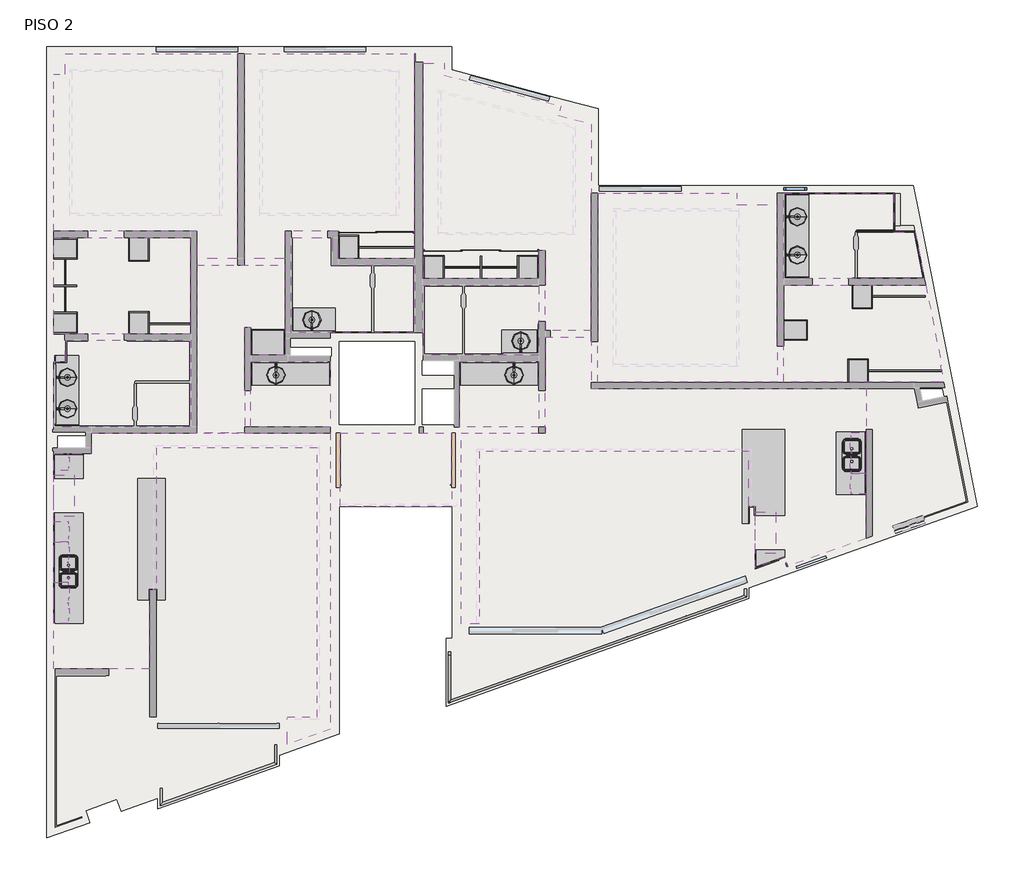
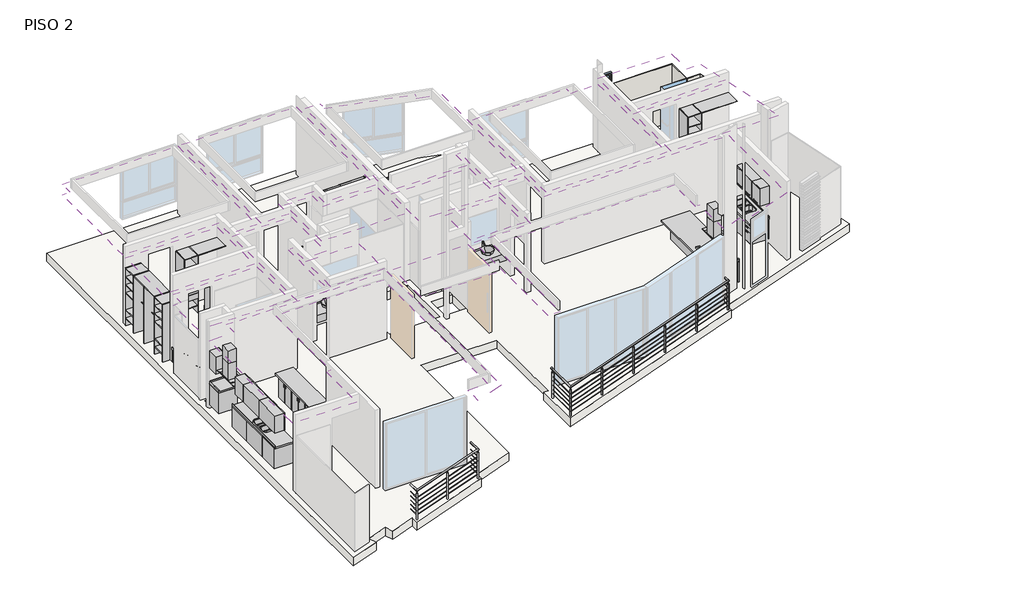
# One storey, part 3 of 3: 39 furniture elements, 18 flow terminals, 16 coverings, 8 walls, 3 windows, 2 proxies, 2 railings, 1 slab.
"""IFC4 building model written with IfcOpenShell, lengths in millimetres."""

from ifc_helpers import new_model, si_unit, frame, origin, place, context, project, spatial, polyline, outline, extrude, faceted_brep, transform, mapped, element, save
from components import specialty_equipment_e95493f8, flow_terminal_a2814962, flow_terminal_5cc0e8a1, flow_terminal_a7820e30, flow_terminal_68213279, flow_terminal_dbe0ad42, furniture_d9654537, furniture_a8ddcfd3, furniture_af3adfe5, furniture_695d730f, furniture_6c499260, furniture_030b6b42, furniture_772ddd76, furniture_c1e19565, furniture_471029ad, furniture_b7afe628, furniture_370_x_600_x_320_mm_8a8752ee, furniture_3900_mm_204c5ad0, furniture_450_x_600_x_320_mm_b980701e, furniture_450_x_600_x_320_mm_602578f4, furniture_550_mm_c334357f, furniture_620_mm_497b6e52, furniture_620_mm_84e951ed, furniture_680_mm_c6045463, furniture_7700_mm_prof_40_e6cee792, furniture_820_mm_546e8a10, furniture_900_mm_f7b05b38, furniture_900_x_600_x_320_mm_ed7ff752, furniture_900_x_600_x_320_mm_dd102760, cl05_4e4fac43, cl2_closet_fc385fcd, cl3_closet_a3c0aced, cl4_a_closet_81bb138c, cl4b_closet_0a5770e6, cl4c_closet_576a11e8, cl6a_closet_3e36db71, cl6b_closet_5e1df598, cl6c_closet_d8154fa9, cubierta2_cubierta_aadcaa71, cubierta3_cubierta_942fcd4e, railing_a711cc9b, railing_feb85b43, window_504e83ce, window_e5abd41f, window_608fdc28

model = new_model("IFC4")

# Units and contexts
model_context = context("Model", 3, world=origin())
ifc_project = project(units=[si_unit("LENGTHUNIT", "METRE", prefix="MILLI")], contexts=[model_context])

# Site, building, storey
site = spatial("IfcSite", under=ifc_project)
building = spatial("IfcBuilding", under=site)
storey = spatial("IfcBuildingStorey", under=building, Name="PISO 2", Elevation=6000.0)

# Proxies
placement = place(None, origin())
specialty_equipment_shape = specialty_equipment_e95493f8(model_context)
element("IfcBuildingElementProxy", 1, Name="Campana rectangular - muro : Campana rectangular - muro", ObjectType="Campana rectangular - muro : Campana rectangular - muro", at=placement, inside=storey, context=model_context, shape_type="MappedRepresentation", body=[
    mapped(specialty_equipment_shape, transform((34277.2089874, 28344.010184, 6250.0), x_axis=(0.0, 1.0, 0.0), y_axis=(-1.0, 0.0, 0.0), z_axis=(0.0, 0.0, 1.0))),
])
element("IfcBuildingElementProxy", 2, Name="Campana rectangular - muro : Campana rectangular - muro", ObjectType="Campana rectangular - muro : Campana rectangular - muro", at=placement, inside=storey, context=model_context, shape_type="MappedRepresentation", body=[
    mapped(specialty_equipment_shape, transform((49717.8559119, 27525.7129416, 6250.0), x_axis=(0.0, 1.0, 0.0), y_axis=(-1.0, 0.0, 0.0), z_axis=(0.0, 0.0, 1.0))),
])

# Coverings
element("IfcCovering", 3, ObjectType="Plafond Tablaroca", at=placement, inside=storey, context=model_context, shape_type="SweptSolid", body=[
    extrude(outline(polyline([(34143.8589874, 34168.9785701), (34143.8589874, 37625.4026232), (34398.8589874, 37625.4026232), (34398.8589874, 38080.4026232), (38194.5300226, 38080.4026232), (38194.5300226, 33568.9784839), (37294.5300226, 33568.9784839), (37294.5300226, 34168.9785701), (34143.8589874, 34168.9785701)]), holes=[polyline([(34543.8589874, 34568.9785701), (37794.5300226, 34568.9785701), (37794.5300226, 37680.4026232), (34543.8589874, 37680.4026232), (34543.8589874, 34568.9785701)])]), frame((0.0, 0.0, 8350.0), z_axis=(0.0, 0.0, 1.0), x_axis=(1.0, 0.0, 0.0)), (0.0, 0.0, 1.0), 52.7),
])
element("IfcCovering", 4, ObjectType="Plafond Tablaroca", at=placement, inside=storey, context=model_context, shape_type="SweptSolid", body=[
    extrude(outline(polyline([(38334.5300226, 38080.4026232), (42084.5059119, 38080.4026232), (42084.5059119, 33568.9784839), (40409.5059119, 33568.9784839), (40409.5059119, 34168.9785701), (39234.5300226, 34168.9785701), (39234.5300226, 33568.9784839), (38334.5300226, 33568.9784839), (38334.5300226, 38080.4026232)]), holes=[polyline([(38734.5300226, 37680.4026232), (38734.5300226, 34568.9785701), (41684.5059119, 34568.9785701), (41684.5059119, 37680.4026232), (38734.5300226, 37680.4026232)])]), frame((0.0, 0.0, 8350.0), z_axis=(0.0, 0.0, 1.0), x_axis=(1.0, 0.0, 0.0)), (0.0, 0.0, 1.0), 52.7),
])
element("IfcCovering", 5, ObjectType="Plafond Tablaroca", at=placement, inside=storey, context=model_context, shape_type="SweptSolid", body=[
    extrude(outline(polyline([(45253.4028147, 36725.1514674), (45974.5059119, 36531.2471191), (45974.5059119, 35104.0104642), (45974.5059119, 31984.0100923), (44964.5251366, 31984.0100923), (44964.5251366, 33744.0113905), (44824.5251366, 33744.0113905), (44824.5251366, 33124.0113856), (42264.5059119, 33124.0113856), (42264.5059119, 37875.4026232), (42744.5059119, 37875.4026232), (42744.5059119, 37612.0750171), (45306.6362479, 36923.1191455), (45253.4028147, 36725.1514674)]), holes=[polyline([(42664.5059119, 37219.3779563), (42664.5059119, 34144.0113905), (45574.5059119, 34144.0113905), (45574.5059119, 36436.8800645), (42664.5059119, 37219.3779563)])]), frame((0.0, 0.0, 8350.0), z_axis=(0.0, 0.0, 1.0), x_axis=(1.0, 0.0, 0.0)), (0.0, 0.0, 1.0), 52.7),
])
element("IfcCovering", 6, ObjectType="Plafond Tablaroca", at=placement, inside=storey, context=model_context, shape_type="SweptSolid", body=[
    extrude(outline(polyline([(42084.5059119, 31933.9733508), (40329.5059119, 31933.9733508), (39374.5300226, 31933.9733508), (39374.5300226, 34028.9785701), (40269.5059119, 34028.9785701), (40269.5059119, 33428.9784839), (42084.5059119, 33428.9784839), (42084.5059119, 31933.9733508)])), frame((0.0, 0.0, 8350.0), z_axis=(0.0, 0.0, 1.0), x_axis=(1.0, 0.0, 0.0)), (0.0, 0.0, 1.0), 52.7),
])
element("IfcCovering", 7, ObjectType="Plafond Tablaroca", at=placement, inside=storey, context=model_context, shape_type="SweptSolid", body=[
    extrude(outline(polyline([(40234.5059119, 31304.0104769), (40234.5059119, 29864.010184), (38484.5059119, 29864.010184), (38484.5059119, 31304.0104769), (39294.5300226, 31304.0104769), (40234.5059119, 31304.0104769)])), frame((0.0, 0.0, 8350.0), z_axis=(0.0, 0.0, 1.0), x_axis=(1.0, 0.0, 0.0)), (0.0, 0.0, 1.0), 52.7),
])
element("IfcCovering", 8, ObjectType="Plafond Tablaroca", at=placement, inside=storey, context=model_context, shape_type="SweptSolid", body=[
    extrude(outline(polyline([(34903.8589874, 29864.010184), (34143.8589874, 29864.010184), (34143.8589874, 31298.9733508), (34398.8589874, 31298.9733508), (34398.8589874, 31768.9733508), (37154.5300226, 31768.9733508), (37154.5300226, 29864.010184), (34903.8589874, 29864.010184)])), frame((0.0, 0.0, 8350.0), z_axis=(0.0, 0.0, 1.0), x_axis=(1.0, 0.0, 0.0)), (0.0, 0.0, 1.0), 52.7),
])
element("IfcCovering", 9, ObjectType="Plafond Tablaroca", at=placement, inside=storey, context=model_context, shape_type="SweptSolid", body=[
    extrude(outline(polyline([(37154.5300226, 31908.9733508), (34143.8589874, 31908.9733508), (34143.8589874, 34028.9785701), (37154.5300226, 34028.9785701), (37154.5300226, 31908.9733508)])), frame((0.0, 0.0, 8350.0), z_axis=(0.0, 0.0, 1.0), x_axis=(1.0, 0.0, 0.0)), (0.0, 0.0, 1.0), 52.7),
])
element("IfcCovering", 10, ObjectType="Plafond Tablaroca", at=placement, inside=storey, context=model_context, shape_type="SweptSolid", body=[
    extrude(outline(polyline([(39234.5300226, 33428.9784839), (39234.5300226, 31444.0104769), (38484.5059119, 31444.0104769), (38484.5059119, 32044.0104769), (38344.5059119, 32044.0104769), (38344.5059119, 29724.010184), (37294.5300226, 29724.010184), (37294.5300226, 33428.9784839), (39234.5300226, 33428.9784839)])), frame((0.0, 0.0, 8350.0), z_axis=(0.0, 0.0, 1.0), x_axis=(1.0, 0.0, 0.0)), (0.0, 0.0, 1.0), 52.7),
])
element("IfcCovering", 11, ObjectType="Plafond Tablaroca", at=placement, inside=storey, context=model_context, shape_type="SweptSolid", body=[
    extrude(outline(polyline([(43014.5059119, 31444.0104755), (42279.5059119, 31444.0104755), (42279.5059119, 31838.9733508), (42264.5059119, 31838.9733508), (42264.5059119, 32984.0113856), (44824.5251366, 32984.0113856), (44824.5251366, 31444.0104755), (43014.5059119, 31444.0104755)])), frame((0.0, 0.0, 8350.0), z_axis=(0.0, 0.0, 1.0), x_axis=(1.0, 0.0, 0.0)), (0.0, 0.0, 1.0), 52.7),
])
element("IfcCovering", 12, ObjectType="Plafond Tablaroca", at=placement, inside=storey, context=model_context, shape_type="SweptSolid", body=[
    extrude(outline(polyline([(44824.5251366, 31304.0104755), (44824.5251366, 29864.010184), (43074.5059119, 29864.010184), (43074.5059119, 31304.0104755), (44824.5251366, 31304.0104755)])), frame((0.0, 0.0, 8350.0), z_axis=(0.0, 0.0, 1.0), x_axis=(1.0, 0.0, 0.0)), (0.0, 0.0, 1.0), 52.7),
])
element("IfcCovering", 13, ObjectType="Plafond Tablaroca", at=placement, inside=storey, context=model_context, shape_type="SweptSolid", body=[
    extrude(outline(polyline([(46114.5059119, 30844.0100923), (46114.5059119, 35014.0104642), (49179.4822189, 35014.0104642), (49179.4822189, 34759.0104642), (50074.4822189, 34759.0104642), (50074.4822189, 30844.0100923), (46114.5059119, 30844.0100923)]), holes=[polyline([(46514.5059119, 34614.0104642), (46514.5059119, 31244.0100923), (49174.4822189, 31244.0100923), (49174.4822189, 34614.0104642), (46514.5059119, 34614.0104642)])]), frame((0.0, 0.0, 8350.0), z_axis=(0.0, 0.0, 1.0), x_axis=(1.0, 0.0, 0.0)), (0.0, 0.0, 1.0), 52.7),
])
element("IfcCovering", 14, ObjectType="Plafond Tablaroca", at=placement, inside=storey, context=model_context, shape_type="SweptSolid", body=[
    extrude(outline(polyline([(52636.6303003, 35014.0104642), (52636.6303003, 34154.0104642), (53104.1193844, 34154.0104642), (53310.4167001, 33124.0113812), (50214.4822189, 33124.0113812), (50214.4822189, 35014.0104642), (52636.6303003, 35014.0104642)])), frame((0.0, 0.0, 8350.0), z_axis=(0.0, 0.0, 1.0), x_axis=(1.0, 0.0, 0.0)), (0.0, 0.0, 1.0), 52.7),
])
element("IfcCovering", 15, ObjectType="Plafond Tablaroca", at=placement, inside=storey, context=model_context, shape_type="SweptSolid", body=[
    extrude(outline(polyline([(50214.4822189, 32984.0113812), (53338.4571369, 32984.0113812), (53693.0464332, 31213.6216464), (53663.630648, 31207.7299931), (53736.479683, 30844.0100923), (53134.7162741, 30844.0100923), (50214.4822189, 30844.0100923), (50214.4822189, 32984.0113812)])), frame((0.0, 0.0, 8350.0), z_axis=(0.0, 0.0, 1.0), x_axis=(1.0, 0.0, 0.0)), (0.0, 0.0, 1.0), 52.7),
])
element("IfcCovering", 16, ObjectType="Plafond Tablaroca", at=placement, inside=storey, context=model_context, shape_type="SweptSolid", body=[
    extrude(outline(polyline([(44964.5251366, 31844.0100923), (45974.5059119, 31844.0100923), (45974.5059119, 30704.0100923), (52024.4822189, 30704.0100923), (52024.4822189, 27404.4885747), (50300.9007209, 26790.2841715), (50230.4085675, 26988.0993789), (49584.5059119, 26757.929668), (49584.5059119, 28111.0432167), (49444.5059119, 28111.0432167), (49444.5059119, 29324.010184), (43509.5059119, 29324.010184), (43509.5059119, 25525.2541962), (43109.5059119, 25525.2541962), (43109.5059119, 29724.010184), (44964.5251366, 29724.010184), (44964.5251366, 31844.0100923)])), frame((0.0, 0.0, 8350.0), z_axis=(0.0, 0.0, 1.0), x_axis=(1.0, 0.0, 0.0)), (0.0, 0.0, 1.0), 52.7),
])
element("IfcCovering", 17, ObjectType="Plafond Tablaroca", at=placement, inside=storey, context=model_context, shape_type="SweptSolid", body=[
    extrude(outline(polyline([(40444.5059119, 28111.0432167), (40444.5059119, 29724.010184), (42899.5059119, 29724.010184), (42899.5059119, 28111.0432167), (40444.5059119, 28111.0432167)])), frame((0.0, 0.0, 8350.0), z_axis=(0.0, 0.0, 1.0), x_axis=(1.0, 0.0, 0.0)), (0.0, 0.0, 1.0), 52.7),
])
element("IfcCovering", 18, ObjectType="Plafond Tablaroca", at=placement, inside=storey, context=model_context, shape_type="SweptSolid", body=[
    extrude(outline(polyline([(34963.8589874, 29274.010184), (34963.8589874, 29724.010184), (40234.5059119, 29724.010184), (40234.5059119, 23203.0885419), (39284.5057602, 22864.5526055), (39284.5057602, 23418.2402233), (39284.5057602, 23470.9402233), (39939.5059119, 23470.9402233), (39939.5059119, 29394.010184), (36394.5300226, 29394.010184), (36394.5300226, 26269.0176189), (36254.5300226, 26269.0176189), (36254.5300226, 24532.4819685), (34143.8589874, 24532.4819685), (34143.8589874, 25532.4819737), (34143.8589874, 29274.010184), (34963.8589874, 29274.010184)])), frame((0.0, 0.0, 8350.0), z_axis=(0.0, 0.0, 1.0), x_axis=(1.0, 0.0, 0.0)), (0.0, 0.0, 1.0), 52.7),
])

# Flow terminals
flow_terminal_shape = flow_terminal_a2814962(model_context)
element("IfcFlowTerminal", 19, ObjectType="Ovalin sobreponer maia - vitromex : Accesorios_baño", at=placement, inside=storey, context=model_context, shape_type="MappedRepresentation", body=[
    mapped(flow_terminal_shape, transform((34443.8589874, 30260.983502, 6000.0), x_axis=(1.0, 0.0, 0.0), y_axis=(0.0, 1.0, 0.0), z_axis=(0.0, 0.0, 1.0))),
])
element("IfcFlowTerminal", 20, ObjectType="Ovalin sobreponer maia - vitromex : Accesorios_baño", at=placement, inside=storey, context=model_context, shape_type="MappedRepresentation", body=[
    mapped(flow_terminal_shape, transform((39824.5300226, 32218.9733508, 6000.0), x_axis=(0.0, 1.0, 0.0), y_axis=(-1.0, 0.0, 0.0), z_axis=(0.0, 0.0, 1.0))),
])
element("IfcFlowTerminal", 21, ObjectType="Ovalin sobreponer maia - vitromex : Accesorios_baño", at=placement, inside=storey, context=model_context, shape_type="MappedRepresentation", body=[
    mapped(flow_terminal_shape, transform((44424.5034689, 31754.0104755, 6000.0), x_axis=(0.0, 1.0, 0.0), y_axis=(-1.0, 0.0, 0.0), z_axis=(0.0, 0.0, 1.0))),
])
element("IfcFlowTerminal", 22, ObjectType="Ovalin sobreponer maia - vitromex : Accesorios_baño", at=placement, inside=storey, context=model_context, shape_type="MappedRepresentation", body=[
    mapped(flow_terminal_shape, transform((44274.5251366, 31001.9733508, 6000.0), x_axis=(0.0, -1.0, 0.0), y_axis=(1.0, 0.0, 0.0), z_axis=(0.0, 0.0, 1.0))),
])
element("IfcFlowTerminal", 23, ObjectType="Ovalin sobreponer maia - vitromex : Accesorios_baño", at=placement, inside=storey, context=model_context, shape_type="MappedRepresentation", body=[
    mapped(flow_terminal_shape, transform((50514.4822189, 33648.5026573, 6000.0), x_axis=(1.0, 0.0, 0.0), y_axis=(0.0, 1.0, 0.0), z_axis=(0.0, 0.0, 1.0))),
])
flow_terminal_2_shape = flow_terminal_5cc0e8a1(model_context)
element("IfcFlowTerminal", 24, ObjectType="monomando lavabo - tubo : monomando lavabo - tubo", at=placement, inside=storey, context=model_context, shape_type="MappedRepresentation", body=[
    mapped(flow_terminal_2_shape, transform((34203.8589874, 30260.983502, 6000.0), x_axis=(0.0, 1.0, 0.0), y_axis=(-1.0, 0.0, 0.0), z_axis=(0.0, 0.0, 1.0))),
])
element("IfcFlowTerminal", 25, ObjectType="monomando lavabo - tubo : monomando lavabo - tubo", at=placement, inside=storey, context=model_context, shape_type="MappedRepresentation", body=[
    mapped(flow_terminal_2_shape, transform((39824.5300226, 31978.9733508, 6000.0), x_axis=(-1.0, 0.0, 0.0), y_axis=(0.0, -1.0, 0.0), z_axis=(0.0, 0.0, 1.0))),
])
element("IfcFlowTerminal", 26, ObjectType="monomando lavabo - tubo : monomando lavabo - tubo", at=placement, inside=storey, context=model_context, shape_type="MappedRepresentation", body=[
    mapped(flow_terminal_2_shape, transform((44424.5034689, 31514.0104755, 6000.0), x_axis=(-1.0, 0.0, 0.0), y_axis=(0.0, -1.0, 0.0), z_axis=(0.0, 0.0, 1.0))),
])
element("IfcFlowTerminal", 27, ObjectType="monomando lavabo - tubo : monomando lavabo - tubo", at=placement, inside=storey, context=model_context, shape_type="MappedRepresentation", body=[
    mapped(flow_terminal_2_shape, transform((44274.5251366, 31241.9733508, 6000.0), x_axis=(1.0, 0.0, 0.0), y_axis=(0.0, 1.0, 0.0), z_axis=(0.0, 0.0, 1.0))),
])
element("IfcFlowTerminal", 28, ObjectType="monomando lavabo - tubo : monomando lavabo - tubo", at=placement, inside=storey, context=model_context, shape_type="MappedRepresentation", body=[
    mapped(flow_terminal_2_shape, transform((50274.4822189, 33648.5026573, 6000.0), x_axis=(0.0, 1.0, 0.0), y_axis=(-1.0, 0.0, 0.0), z_axis=(0.0, 0.0, 1.0))),
])
flow_terminal_3_shape = flow_terminal_a7820e30(model_context)
element("IfcFlowTerminal", 29, ObjectType="monomando lavabo - tubo : monomando lavabo - tubo", at=placement, inside=storey, context=model_context, shape_type="MappedRepresentation", body=[
    mapped(flow_terminal_3_shape, transform((34203.8589874, 30952.0000328, 6000.0), x_axis=(0.0, -1.0, 0.0), y_axis=(1.0, 0.0, 0.0), z_axis=(0.0, 0.0, 1.0))),
])
element("IfcFlowTerminal", 30, ObjectType="monomando lavabo - tubo : monomando lavabo - tubo", at=placement, inside=storey, context=model_context, shape_type="MappedRepresentation", body=[
    mapped(flow_terminal_3_shape, transform((39034.5059119, 31241.9733508, 6000.0), x_axis=(-1.0, 0.0, 0.0), y_axis=(0.0, -1.0, 0.0), z_axis=(0.0, 0.0, 1.0))),
])
element("IfcFlowTerminal", 31, ObjectType="monomando lavabo - tubo : monomando lavabo - tubo", at=placement, inside=storey, context=model_context, shape_type="MappedRepresentation", body=[
    mapped(flow_terminal_3_shape, transform((50274.4822189, 34489.5191881, 6000.0), x_axis=(0.0, -1.0, 0.0), y_axis=(1.0, 0.0, 0.0), z_axis=(0.0, 0.0, 1.0))),
])
flow_terminal_4_shape = flow_terminal_68213279(model_context)
element("IfcFlowTerminal", 32, ObjectType="Ovalin sobreponer maia - vitromex : Accesorios_baño", at=placement, inside=storey, context=model_context, shape_type="MappedRepresentation", body=[
    mapped(flow_terminal_4_shape, transform((34443.8589874, 30952.0000328, 6000.0), x_axis=(1.0, 0.0, 0.0), y_axis=(0.0, 1.0, 0.0), z_axis=(0.0, 0.0, 1.0))),
])
element("IfcFlowTerminal", 33, ObjectType="Ovalin sobreponer maia - vitromex : Accesorios_baño", at=placement, inside=storey, context=model_context, shape_type="MappedRepresentation", body=[
    mapped(flow_terminal_4_shape, transform((39034.5059119, 31001.9733508, 6000.0), x_axis=(0.0, -1.0, 0.0), y_axis=(1.0, 0.0, 0.0), z_axis=(0.0, 0.0, 1.0))),
])
element("IfcFlowTerminal", 34, ObjectType="Ovalin sobreponer maia - vitromex : Accesorios_baño", at=placement, inside=storey, context=model_context, shape_type="MappedRepresentation", body=[
    mapped(flow_terminal_4_shape, transform((50514.4822189, 34489.5191881, 6000.0), x_axis=(1.0, 0.0, 0.0), y_axis=(0.0, 1.0, 0.0), z_axis=(0.0, 0.0, 1.0))),
])
flow_terminal_5_shape = flow_terminal_dbe0ad42(model_context)
element("IfcFlowTerminal", 35, ObjectType="Tarja Teka subm BE 780 : TARJA PARA COCINA", at=placement, inside=storey, context=model_context, shape_type="MappedRepresentation", body=[
    mapped(flow_terminal_5_shape, transform((34489.2043886, 26620.3209435, 5962.9), x_axis=(0.0, 1.0000000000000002, 0.0), y_axis=(-1.0000000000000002, 0.0, 0.0), z_axis=(0.0, 0.0, 1.0))),
])
element("IfcFlowTerminal", 36, ObjectType="Tarja Teka subm BE 780 : TARJA PARA COCINA", at=placement, inside=storey, context=model_context, shape_type="MappedRepresentation", body=[
    mapped(flow_terminal_5_shape, transform((51691.6368177, 29295.5424593, 5962.9), x_axis=(0.0, -1.0, 0.0), y_axis=(1.0, 0.0, 0.0), z_axis=(0.0, 0.0, 1.0))),
])

# Furniture
furniture_shape = furniture_d9654537(model_context)
element("IfcFurniture", 37, ObjectType="Mueble con faldon sin cajones - lavabo sobreponer : MB8-mueble baño colgado- 1.75cm", at=placement, inside=storey, context=model_context, shape_type="MappedRepresentation", body=[
    mapped(furniture_shape, transform((39484.5059119, 31364.0104769, 6000.0), x_axis=(-1.0, 0.0, 0.0), y_axis=(0.0, -1.0, 0.0), z_axis=(0.0, 0.0, 1.0))),
])
furniture_2_shape = furniture_a8ddcfd3(model_context)
element("IfcFurniture", 38, ObjectType="Puerta Closet corre 3 hojas : Puerta corrdiza 3 hojas PCL-02", at=placement, inside=storey, context=model_context, shape_type="MappedRepresentation", body=[
    mapped(furniture_2_shape, transform((43554.5251366, 33644.0113856, 6000.0), x_axis=(1.0, 0.0, 0.0), y_axis=(0.0, 1.0, 0.0), z_axis=(0.0, 0.0, 1.0))),
])
furniture_3_shape = furniture_af3adfe5(model_context)
element("IfcFurniture", 39, ObjectType="Puerta Closet corre 2 hojas : Puerta corrdiza 2 hojas", at=placement, inside=storey, context=model_context, shape_type="MappedRepresentation", body=[
    mapped(furniture_3_shape, transform((41784.5059119, 34048.9785701, 6000.0), x_axis=(1.0, 0.0, 0.0), y_axis=(0.0, 1.0, 0.0), z_axis=(0.0, 0.0, 1.0))),
])
furniture_4_shape = furniture_695d730f(model_context)
element("IfcFurniture", 40, ObjectType="Mueble colgado 1 cajon - lavabo sobreponer : MB4-mueble baño colgado-1 cajon 80 cm", at=placement, inside=storey, context=model_context, shape_type="MappedRepresentation", body=[
    mapped(furniture_4_shape, transform((44279.5251366, 31454.0104754, 6000.0), x_axis=(1.0, 0.0, 0.0), y_axis=(0.0, 1.0, 0.0), z_axis=(0.0, 0.0, 1.0))),
])
furniture_5_shape = furniture_6c499260(model_context)
element("IfcFurniture", 41, ObjectType="Mueble colgado 1 cajon - lavabo sobreponer : MB1-mueble baño colgado-1 cajon - 90cm", at=placement, inside=storey, context=model_context, shape_type="MappedRepresentation", body=[
    mapped(furniture_5_shape, transform((39744.5300226, 31943.9733508, 6000.0), x_axis=(1.0, 0.0, 0.0), y_axis=(0.0, 1.0, 0.0), z_axis=(0.0, 0.0, 1.0))),
])
furniture_6_shape = furniture_030b6b42(model_context)
element("IfcFurniture", 42, ObjectType="Mueble colgado 2 cajones al lado - lavabo sobreponer : MB2-mueble baño colgado-2 cajones al lado 150", at=placement, inside=storey, context=model_context, shape_type="MappedRepresentation", body=[
    mapped(furniture_6_shape, transform((34153.8589874, 30784.010184, 6000.0), x_axis=(0.0, -1.0, 0.0), y_axis=(1.0, 0.0, 0.0), z_axis=(0.0, 0.0, 1.0))),
])
furniture_7_shape = furniture_772ddd76(model_context)
element("IfcFurniture", 43, ObjectType="Mueble colgado 2 cajones al lado - lavabo sobreponer : MB3-mueble baño colgado-2 cajones al lado 185", at=placement, inside=storey, context=model_context, shape_type="MappedRepresentation", body=[
    mapped(furniture_7_shape, transform((50224.4822189, 34194.0104642, 6000.0), x_axis=(0.0, -1.0, 0.0), y_axis=(1.0, 0.0, 0.0), z_axis=(0.0, 0.0, 1.0))),
])
furniture_8_shape = furniture_c1e19565(model_context)
element("IfcFurniture", 44, ObjectType="Mueble con faldon sin cajones - lavabo sobreponer : MB8-mueble baño colgado- 1.75cm", at=placement, inside=storey, context=model_context, shape_type="MappedRepresentation", body=[
    mapped(furniture_8_shape, transform((44074.5251366, 31374.0104755, 6000.0), x_axis=(-1.0, 0.0, 0.0), y_axis=(0.0, -1.0, 0.0), z_axis=(0.0, 0.0, 1.0))),
])
furniture_9_shape = furniture_471029ad(model_context)
element("IfcFurniture", 45, ObjectType="ajuste mueble - esquinas5 : ajuste mueble - esquinas", at=placement, inside=storey, context=model_context, shape_type="MappedRepresentation", body=[
    mapped(furniture_9_shape, transform((0.0, 0.0, 0.0), x_axis=(1.0, 0.0, 0.0), y_axis=(0.0, 1.0, 0.0), z_axis=(0.0, 0.0, 1.0))),
])
furniture_10_shape = furniture_b7afe628(model_context)
element("IfcFurniture", 46, ObjectType="ajuste mueble - esquinas6 : ajuste mueble - esquinas", at=placement, inside=storey, context=model_context, shape_type="MappedRepresentation", body=[
    mapped(furniture_10_shape, transform((81275.8064612, -6969.2760266, 0.0), x_axis=(0.0, 1.0, 0.0), y_axis=(-1.0, 0.0, 0.0), z_axis=(0.0, 0.0, 1.0))),
])
furniture_370_x_600_x_320_mm_shape = furniture_370_x_600_x_320_mm_8a8752ee(model_context)
element("IfcFurniture", 47, ObjectType="Armario superior - Puerta simple : 370 x 600 x 320 mm", at=placement, inside=storey, context=model_context, shape_type="MappedRepresentation", body=[
    mapped(furniture_370_x_600_x_320_mm_shape, transform((34053.8589874, 28914.010184, 6000.0), x_axis=(0.0, 1.0, 0.0), y_axis=(-1.0, 0.0, 0.0), z_axis=(0.0, 0.0, 1.0))),
])
furniture_3900_mm_shape = furniture_3900_mm_204c5ad0(model_context)
element("IfcFurniture", 48, ObjectType="Armario 3 cajones : 3900 mm", at=placement, inside=storey, context=model_context, shape_type="MappedRepresentation", body=[
    mapped(furniture_3900_mm_shape, transform((52024.4822189, 28613.0909236, 6000.0), x_axis=(0.0, -1.0, 0.0), y_axis=(1.0, 0.0, 0.0), z_axis=(0.0, 0.0, 1.0))),
])
furniture_450_x_600_x_320_mm_shape = furniture_450_x_600_x_320_mm_b980701e(model_context)
element("IfcFurniture", 49, ObjectType="Armario superior - Puerta simple : 450 x 600 x 320 mm", at=placement, inside=storey, context=model_context, shape_type="MappedRepresentation", body=[
    mapped(furniture_450_x_600_x_320_mm_shape, transform((52094.4822189, 28434.010184, 6000.0), x_axis=(0.0, 1.0, 0.0), y_axis=(-1.0, 0.0, 0.0), z_axis=(0.0, 0.0, 1.0))),
])
furniture_450_x_600_x_320_mm_2_shape = furniture_450_x_600_x_320_mm_602578f4(model_context)
element("IfcFurniture", 50, ObjectType="Armario superior - Puerta simple : 450 x 600 x 320 mm", at=placement, inside=storey, context=model_context, shape_type="MappedRepresentation", body=[
    mapped(furniture_450_x_600_x_320_mm_2_shape, transform((34053.8589874, 27732.4819737, 6000.0), x_axis=(0.0, -1.0, 0.0), y_axis=(1.0, 0.0, 0.0), z_axis=(0.0, 0.0, 1.0))),
])
furniture_550_mm_shape = furniture_550_mm_c334357f(model_context)
element("IfcFurniture", 51, ObjectType="Armario-Una puerta : 550 mm", at=placement, inside=storey, context=model_context, shape_type="MappedRepresentation", body=[
    mapped(furniture_550_mm_shape, transform((34143.8589874, 29017.7478889, 6000.0), x_axis=(0.0, -1.0, 0.0), y_axis=(1.0, 0.0, 0.0), z_axis=(0.0, 0.0, 1.0))),
])
furniture_620_mm_shape = furniture_620_mm_497b6e52(model_context)
element("IfcFurniture", 52, ObjectType="Armario-Una puerta : 620 mm", at=placement, inside=storey, context=model_context, shape_type="MappedRepresentation", body=[
    mapped(furniture_620_mm_shape, transform((49604.5059119, 28205.2724791, 6000.0), x_axis=(0.0, 1.0, 0.0), y_axis=(-1.0, 0.0, 0.0), z_axis=(0.0, 0.0, 1.0))),
])
furniture_620_mm_2_shape = furniture_620_mm_84e951ed(model_context)
element("IfcFurniture", 53, ObjectType="Armario-Una puerta : 620 mm", at=placement, inside=storey, context=model_context, shape_type="MappedRepresentation", body=[
    mapped(furniture_620_mm_2_shape, transform((49604.5059119, 28862.7478889, 6000.0), x_axis=(0.0, -1.0, 0.0), y_axis=(1.0, 0.0, 0.0), z_axis=(0.0, 0.0, 1.0))),
])
element("IfcFurniture", 54, ObjectType="Armario-Una puerta : 620 mm", at=placement, inside=storey, context=model_context, shape_type="MappedRepresentation", body=[
    mapped(furniture_620_mm_2_shape, transform((49604.5059119, 29482.7478889, 6000.0), x_axis=(0.0, -1.0, 0.0), y_axis=(1.0, 0.0, 0.0), z_axis=(0.0, 0.0, 1.0))),
])
furniture_680_mm_shape = furniture_680_mm_c6045463(model_context)
element("IfcFurniture", 55, ObjectType="Armario 3 cajones : 680 mm", at=placement, inside=storey, context=model_context, shape_type="MappedRepresentation", body=[
    mapped(furniture_680_mm_shape, transform((34143.8589874, 25922.7478889, 6000.0), x_axis=(0.0, -1.0, 0.0), y_axis=(1.0, 0.0, 0.0), z_axis=(0.0, 0.0, 1.0))),
])
furniture_7700_mm_prof_40_shape = furniture_7700_mm_prof_40_e6cee792(model_context)
element("IfcFurniture", 56, ObjectType="Armario-Puerta doble Unidad de fregadero : 7700 mm - prof 40", at=placement, inside=storey, context=model_context, shape_type="MappedRepresentation", body=[
    mapped(furniture_7700_mm_prof_40_shape, transform((36423.8589874, 26672.7553238, 6000.0), x_axis=(0.0, -1.0, 0.0), y_axis=(1.0, 0.0, 0.0), z_axis=(0.0, 0.0, 1.0))),
])
element("IfcFurniture", 57, ObjectType="Armario-Puerta doble Unidad de fregadero : 7700 mm - prof 40", at=placement, inside=storey, context=model_context, shape_type="MappedRepresentation", body=[
    mapped(furniture_7700_mm_prof_40_shape, transform((36423.8589874, 27442.7553238, 6000.0), x_axis=(0.0, -1.0, 0.0), y_axis=(1.0, 0.0, 0.0), z_axis=(0.0, 0.0, 1.0))),
])
element("IfcFurniture", 58, ObjectType="Armario-Puerta doble Unidad de fregadero : 7700 mm - prof 40", at=placement, inside=storey, context=model_context, shape_type="MappedRepresentation", body=[
    mapped(furniture_7700_mm_prof_40_shape, transform((36423.8589874, 28212.7553238, 6000.0), x_axis=(0.0, -1.0, 0.0), y_axis=(1.0, 0.0, 0.0), z_axis=(0.0, 0.0, 1.0))),
])
furniture_820_mm_shape = furniture_820_mm_546e8a10(model_context)
element("IfcFurniture", 59, ObjectType="Armario-Puerta doble Unidad de fregadero : 820 mm", at=placement, inside=storey, context=model_context, shape_type="MappedRepresentation", body=[
    mapped(furniture_820_mm_shape, transform((34143.8589874, 27535.2724791, 6000.0), x_axis=(0.0, 1.0, 0.0), y_axis=(-1.0, 0.0, 0.0), z_axis=(0.0, 0.0, 1.0))),
])
furniture_900_mm_shape = furniture_900_mm_f7b05b38(model_context)
element("IfcFurniture", 60, ObjectType="Armario-Puerta doble Unidad de fregadero : 900 mm", at=placement, inside=storey, context=model_context, shape_type="MappedRepresentation", body=[
    mapped(furniture_900_mm_shape, transform((34143.8589874, 26675.2724791, 6000.0), x_axis=(0.0, 1.0, 0.0), y_axis=(-1.0, 0.0, 0.0), z_axis=(0.0, 0.0, 1.0))),
])
element("IfcFurniture", 61, ObjectType="Armario-Puerta doble Unidad de fregadero : 900 mm", at=placement, inside=storey, context=model_context, shape_type="MappedRepresentation", body=[
    mapped(furniture_900_mm_shape, transform((52024.4822189, 29258.0909236, 6000.0), x_axis=(0.0, -1.0, 0.0), y_axis=(1.0, 0.0, 0.0), z_axis=(0.0, 0.0, 1.0))),
])
furniture_900_x_600_x_320_mm_shape = furniture_900_x_600_x_320_mm_ed7ff752(model_context)
element("IfcFurniture", 62, ObjectType="Armario superior - Puerta doble : 900 x 600 x 320 mm", at=placement, inside=storey, context=model_context, shape_type="MappedRepresentation", body=[
    mapped(furniture_900_x_600_x_320_mm_shape, transform((52094.4822189, 29109.010184, 6000.0), x_axis=(0.0, 1.0, 0.0), y_axis=(-1.0, 0.0, 0.0), z_axis=(0.0, 0.0, 1.0))),
])
furniture_900_x_600_x_320_mm_2_shape = furniture_900_x_600_x_320_mm_dd102760(model_context)
element("IfcFurniture", 63, ObjectType="Armario superior - Puerta doble : 900 x 600 x 320 mm", at=placement, inside=storey, context=model_context, shape_type="MappedRepresentation", body=[
    mapped(furniture_900_x_600_x_320_mm_2_shape, transform((34053.8589874, 26157.4819737, 6000.0), x_axis=(0.0, -1.0, 0.0), y_axis=(1.0, 0.0, 0.0), z_axis=(0.0, 0.0, 1.0))),
])
element("IfcFurniture", 64, ObjectType="Armario superior - Puerta doble : 900 x 600 x 320 mm", at=placement, inside=storey, context=model_context, shape_type="MappedRepresentation", body=[
    mapped(furniture_900_x_600_x_320_mm_2_shape, transform((34053.8589874, 27057.4819737, 6000.0), x_axis=(0.0, -1.0, 0.0), y_axis=(1.0, 0.0, 0.0), z_axis=(0.0, 0.0, 1.0))),
])
cl05_shape = cl05_4e4fac43(model_context)
element("IfcFurniture", 65, ObjectType="Closet 5cajones-inf_2puertas-sup : CL05", at=placement, inside=storey, context=model_context, shape_type="MappedRepresentation", body=[
    mapped(cl05_shape, transform((38859.5300226, 32044.0104769, 6000.0), x_axis=(-1.0, 0.0, 0.0), y_axis=(0.0, -1.0, 0.0), z_axis=(0.0, 0.0, 1.0))),
])
cl2_closet_shape = cl2_closet_fc385fcd(model_context)
element("IfcFurniture", 66, ObjectType="Closet 2estantes-2tubos-centro_sin lateral : CL2-CLOSET", at=placement, inside=storey, context=model_context, shape_type="MappedRepresentation", body=[
    mapped(cl2_closet_shape, transform((42505.9004032, 33724.0113856, 6000.0), x_axis=(-1.0, 0.0, 0.0), y_axis=(0.0, -1.0, 0.0), z_axis=(0.0, 0.0, 1.0))),
])
cl3_closet_shape = cl3_closet_a3c0aced(model_context)
element("IfcFurniture", 67, ObjectType="Closet 1estantes-1tubos_sin laterales : CL3-CLOSET", at=placement, inside=storey, context=model_context, shape_type="MappedRepresentation", body=[
    mapped(cl3_closet_shape, transform((40634.5059119, 34168.9784839, 6000.0), x_axis=(-1.0, 0.0, 0.0), y_axis=(0.0, -1.0, 0.0), z_axis=(0.0, 0.0, 1.0))),
])
cl4_a_closet_shape = cl4_a_closet_81bb138c(model_context)
element("IfcFurniture", 68, ObjectType="Closet 2estantes-2tubos-centro_sin lateral : CL4-a CLOSET", at=placement, inside=storey, context=model_context, shape_type="MappedRepresentation", body=[
    mapped(cl4_a_closet_shape, transform((34743.8589874, 33792.5980843, 6000.0), x_axis=(0.0, 1.0, 0.0), y_axis=(-1.0, 0.0, 0.0), z_axis=(0.0, 0.0, 1.0))),
])
cl4b_closet_shape = cl4b_closet_0a5770e6(model_context)
element("IfcFurniture", 69, ObjectType="Closet 1estantes-1tubos_sin laterales : CL4b-CLOSET", at=placement, inside=storey, context=model_context, shape_type="MappedRepresentation", body=[
    mapped(cl4b_closet_shape, transform((36014.5300226, 33428.9785701, 6000.0), x_axis=(-1.0, 0.0, 0.0), y_axis=(0.0, -1.0, 0.0), z_axis=(0.0, 0.0, 1.0))),
])
cl4c_closet_shape = cl4c_closet_576a11e8(model_context)
element("IfcFurniture", 70, ObjectType="Closet 1estantes-1tubos_sin laterales : CL4c-CLOSET", at=placement, inside=storey, context=model_context, shape_type="MappedRepresentation", body=[
    mapped(cl4c_closet_shape, transform((36014.5300226, 32482.5928649, 6000.0), x_axis=(-1.0, 0.0, 0.0), y_axis=(0.0, -1.0, 0.0), z_axis=(0.0, 0.0, 1.0))),
])
cl6a_closet_shape = cl6a_closet_3e36db71(model_context)
element("IfcFurniture", 71, ObjectType="Closet 1estantes-1tubos_sin laterales : CL6a-CLOSET", at=placement, inside=storey, context=model_context, shape_type="MappedRepresentation", body=[
    mapped(cl6a_closet_shape, transform((50814.4822189, 31994.0113812, 6000.0), x_axis=(0.0, -1.0000000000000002, 0.0), y_axis=(1.0000000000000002, 0.0, 0.0), z_axis=(0.0, 0.0, 1.0))),
])
cl6b_closet_shape = cl6b_closet_5e1df598(model_context)
element("IfcFurniture", 72, ObjectType="Closet 1estantes-1tubos_sin laterales : CL6b-CLOSET", at=placement, inside=storey, context=model_context, shape_type="MappedRepresentation", body=[
    mapped(cl6b_closet_shape, transform((51941.9822189, 32384.0113812, 6000.0), x_axis=(-1.0, 0.0, 0.0), y_axis=(0.0, -1.0, 0.0), z_axis=(0.0, 0.0, 1.0))),
])
cl6c_closet_shape = cl6c_closet_d8154fa9(model_context)
element("IfcFurniture", 73, ObjectType="Closet 1estantes-1tubos_sin laterales : CL6c-CLOSET", at=placement, inside=storey, context=model_context, shape_type="MappedRepresentation", body=[
    mapped(cl6c_closet_shape, transform((51851.9822189, 31444.0100923, 6000.0), x_axis=(-1.0, 0.0, 0.0), y_axis=(0.0, -1.0, 0.0), z_axis=(0.0, 0.0, 1.0))),
])
cubierta2_cubierta_shape = cubierta2_cubierta_aadcaa71(model_context)
element("IfcFurniture", 74, ObjectType="Cubierta2 : Cubierta", at=placement, inside=storey, context=model_context, shape_type="MappedRepresentation", body=[
    mapped(cubierta2_cubierta_shape, transform((0.0, 0.0, 0.0), x_axis=(1.0, 0.0, 0.0), y_axis=(0.0, 1.0, 0.0), z_axis=(0.0, 0.0, 1.0))),
])
cubierta3_cubierta_shape = cubierta3_cubierta_942fcd4e(model_context)
element("IfcFurniture", 75, ObjectType="Cubierta3 : Cubierta", at=placement, inside=storey, context=model_context, shape_type="MappedRepresentation", body=[
    mapped(cubierta3_cubierta_shape, transform((0.0, 0.0, 0.0), x_axis=(1.0, 0.0, 0.0), y_axis=(0.0, 1.0, 0.0), z_axis=(0.0, 0.0, 1.0))),
])

# Railings
railing_shape = railing_a711cc9b(model_context)
element("IfcRailing", 76, ObjectType="Barandal general", at=placement, inside=storey, context=model_context, shape_type="MappedRepresentation", body=[
    mapped(railing_shape, transform((0.0, 0.0, 0.0), x_axis=(1.0, 0.0, 0.0), y_axis=(0.0, 1.0, 0.0), z_axis=(0.0, 0.0, 1.0))),
])
railing_2_shape = railing_feb85b43(model_context)
element("IfcRailing", 77, ObjectType="Barandal general 2 sin inicio", at=placement, inside=storey, context=model_context, shape_type="MappedRepresentation", body=[
    mapped(railing_2_shape, transform((0.0, 0.0, 0.0), x_axis=(1.0, 0.0, 0.0), y_axis=(0.0, 1.0, 0.0), z_axis=(0.0, 0.0, 1.0))),
])

# Slab
element("IfcSlab", 78, ObjectType="Suelo-losa 25cms+ceramica PB", at=placement, inside=storey, context=model_context, shape_type="Brep", body=[
    faceted_brep([(33983.8589874, 38240.4026232, 5720.0), (34383.8589874, 38240.4026232, 5720.0), (42104.5059119, 38240.4026232, 5720.0), (42904.5059119, 38240.4026232, 5720.0), (42904.5059119, 37755.4451417, 5720.0), (42904.5059119, 37734.7346902, 5720.0), (45362.6697333, 37073.7353748, 5720.0), (46134.5059119, 36866.1889203, 5720.0), (46134.5059119, 35194.0104642, 5720.0), (46134.5059119, 35174.0104642, 5720.0), (49194.4822189, 35174.0104642, 5720.0), (50194.4822189, 35174.0104642, 5720.0), (53063.0024673, 35174.0104642, 5720.0), (53180.835534, 34585.6947595, 5720.0), (53846.0028523, 31264.654321, 5720.0), (54478.0509778, 28108.9710423, 5720.0), (49444.5059119, 26315.2493372, 5720.0), (49444.5059119, 26081.6980314, 5720.0), (42782.6275078, 23707.7139438, 5720.0), (42782.6275078, 25204.0113032, 5720.0), (42919.5059119, 25204.0113032, 5720.0), (42919.5059119, 28111.0432167, 5720.0), (40424.5059119, 28111.0432167, 5720.0), (40424.5059119, 23100.9402233, 5720.0), (39104.5057586, 22630.553469, 5720.0), (39104.5057586, 22397.0021633, 5720.0), (36434.5058716, 21445.5381976, 5720.0), (36434.5693698, 21679.1121311, 5720.0), (35626.2723906, 21391.0726248, 5720.0), (35532.282868, 21654.8261918, 5720.0), (34843.9752127, 21409.5453083, 5720.0), (34937.9647353, 21145.7917413, 5720.0), (33983.8589874, 20805.7927611, 5720.0), (33983.8589874, 25552.4819737, 5720.0), (33983.8589874, 29274.010184, 5720.0), (33983.8589874, 29864.010184, 5720.0), (33983.8589874, 31313.9733508, 5720.0), (33983.8589874, 31913.9733508, 5720.0), (33983.8589874, 37640.4026232, 5720.0), (40424.5059119, 31743.9733508, 5720.0), (40424.5059119, 29913.9733508, 5720.0), (40444.5059119, 29913.9733508, 5720.0), (42089.5059119, 29913.9733508, 5720.0), (42089.5059119, 31743.9733508, 5720.0), (53212.691844, 30700.2114384, 5720.0), (53265.5912187, 30436.0959933, 5720.0), (53738.0459863, 30530.723408, 5720.0), (53704.0986541, 30699.0100923, 5720.0), (34233.8589874, 29663.9733508, 5720.0), (34233.8589874, 29394.010184, 5720.0), (34843.8589874, 29394.010184, 5720.0), (34843.8589874, 29663.9733508, 5720.0), (42259.5059119, 30699.0100923, 5720.0), (42259.5059119, 29913.9733508, 5720.0), (42954.5059119, 29913.9733508, 5720.0), (42954.5059119, 30699.0100923, 5720.0), (42259.5059119, 31324.0104755, 5720.0), (42259.5059119, 30999.0100923, 5720.0), (42954.5059119, 30999.0100923, 5720.0), (42954.5059119, 31324.0104755, 5720.0), (42279.5059119, 31324.0104755, 5720.0), (39354.5300226, 31613.9733508, 5720.0), (39354.5300226, 31444.0104769, 5720.0), (39354.5300226, 31424.0104769, 5720.0), (40254.5059119, 31424.0104769, 5720.0), (40254.5059119, 31613.9733508, 5720.0), (42904.5059119, 38240.4026232, 6000.0), (42104.5059119, 38240.4026232, 6000.0), (34383.8589874, 38240.4026232, 6000.0), (33983.8589874, 38240.4026232, 6000.0), (33983.8589874, 37640.4026232, 6000.0), (33983.8589874, 31913.9733508, 6000.0), (33983.8589874, 31313.9733508, 6000.0), (33983.8589874, 29864.010184, 6000.0), (33983.8589874, 29274.010184, 6000.0), (33983.8589874, 25552.4819737, 6000.0), (33983.8589874, 20805.7927611, 6000.0), (34937.9647353, 21145.7917413, 6000.0), (34843.9752127, 21409.5453083, 6000.0), (35532.282868, 21654.8261918, 6000.0), (35626.2723906, 21391.0726248, 6000.0), (36434.5693698, 21679.1121311, 6000.0), (36434.5058716, 21445.5381976, 6000.0), (39104.5057586, 22397.0021633, 6000.0), (39104.5057586, 22630.553469, 6000.0), (40424.5059119, 23100.9402233, 6000.0), (40424.5059119, 28111.0432167, 6000.0), (42919.5059119, 28111.0432167, 6000.0), (42919.5059119, 25204.0113032, 6000.0), (42782.6275078, 25204.0113032, 6000.0), (42782.6275078, 23707.7139438, 6000.0), (49444.5059119, 26081.6980314, 6000.0), (49444.5059119, 26315.2493372, 6000.0), (54478.0509778, 28108.9710423, 6000.0), (53846.0028523, 31264.654321, 6000.0), (53180.835534, 34585.6947595, 6000.0), (53063.0024673, 35174.0104642, 6000.0), (50194.4822189, 35174.0104642, 6000.0), (49194.4822189, 35174.0104642, 6000.0), (46134.5059119, 35174.0104642, 6000.0), (46134.5059119, 35194.0104642, 6000.0), (46134.5059119, 36866.1889203, 6000.0), (45362.6697333, 37073.7353748, 6000.0), (42904.5059119, 37734.7346902, 6000.0), (42904.5059119, 37755.4451417, 6000.0), (40424.5059119, 29913.9733508, 6000.0), (40424.5059119, 31743.9733508, 6000.0), (42089.5059119, 31743.9733508, 6000.0), (42089.5059119, 29913.9733508, 6000.0), (40444.5059119, 29913.9733508, 6000.0), (53265.5912187, 30436.0959933, 6000.0), (53212.691844, 30700.2114384, 6000.0), (53704.0986541, 30699.0100923, 6000.0), (53738.0459863, 30530.723408, 6000.0), (34233.8589874, 29394.010184, 6000.0), (34233.8589874, 29663.9733508, 6000.0), (34843.8589874, 29663.9733508, 6000.0), (34843.8589874, 29394.010184, 6000.0), (39354.5300226, 31424.0104769, 6000.0), (39354.5300226, 31613.9733508, 6000.0), (40254.5059119, 31613.9733508, 6000.0), (40254.5059119, 31424.0104769, 6000.0), (42259.5059119, 29913.9733508, 6000.0), (42259.5059119, 30699.0100923, 6000.0), (42954.5059119, 30699.0100923, 6000.0), (42954.5059119, 29913.9733508, 6000.0), (42259.5059119, 30999.0100923, 6000.0), (42259.5059119, 31324.0104755, 6000.0), (42954.5059119, 31324.0104755, 6000.0), (42954.5059119, 30999.0100923, 6000.0)], [[[0, 1, 2, 3, 4, 5, 6, 7, 8, 9, 10, 11, 12, 13, 14, 15, 16, 17, 18, 19, 20, 21, 22, 23, 24, 25, 26, 27, 28, 29, 30, 31, 32, 33, 34, 35, 36, 37, 38], [39, 40, 41, 42, 43], [44, 45, 46, 47], [48, 49, 50, 51], [52, 53, 54, 55], [56, 57, 58, 59, 60], [61, 62, 63, 64, 65]], [[66, 67, 68, 69, 70, 71, 72, 73, 74, 75, 76, 77, 78, 79, 80, 81, 82, 83, 84, 85, 86, 87, 88, 89, 90, 91, 92, 93, 94, 95, 96, 97, 98, 99, 100, 101, 102, 103, 104], [105, 106, 107, 108, 109], [110, 111, 112, 113], [114, 115, 116, 117], [118, 119, 120, 121], [122, 123, 124, 125], [126, 127, 128, 129]], [[3, 2, 1, 0, 69, 68, 67, 66]], [[5, 4, 3, 66, 104, 103]], [[7, 6, 5, 103, 102, 101]], [[9, 8, 7, 101, 100, 99]], [[12, 11, 10, 9, 99, 98, 97, 96]], [[15, 14, 13, 12, 96, 95, 94, 93]], [[16, 15, 93, 92]], [[17, 16, 92, 91]], [[18, 17, 91, 90]], [[19, 18, 90, 89]], [[85, 23, 22, 86]], [[24, 23, 85, 84]], [[25, 24, 84, 83]], [[26, 25, 83, 82]], [[27, 26, 82, 81]], [[28, 27, 81, 80]], [[88, 20, 19, 89]], [[20, 88, 87, 21]], [[21, 87, 86, 22]], [[39, 106, 105, 40]], [[40, 105, 109, 108, 42, 41]], [[42, 108, 107, 43]], [[106, 39, 43, 107]], [[29, 28, 80, 79]], [[30, 29, 79, 78]], [[31, 30, 78, 77]], [[32, 31, 77, 76]], [[44, 111, 110, 45]], [[45, 110, 113, 46]], [[46, 113, 112, 47]], [[111, 44, 47, 112]], [[48, 115, 114, 49]], [[49, 114, 117, 50]], [[50, 117, 116, 51]], [[115, 48, 51, 116]], [[0, 38, 37, 36, 35, 34, 33, 32, 76, 75, 74, 73, 72, 71, 70, 69]], [[61, 119, 118, 63, 62]], [[63, 118, 121, 64]], [[64, 121, 120, 65]], [[119, 61, 65, 120]], [[52, 123, 122, 53]], [[53, 122, 125, 54]], [[54, 125, 124, 55]], [[123, 52, 55, 124]], [[56, 127, 126, 57]], [[57, 126, 129, 58]], [[58, 129, 128, 59]], [[127, 56, 60, 59, 128]]]),
])

# Walls
element("IfcWall", 79, ObjectType="Cerámica baño", at=placement, inside=storey, context=model_context, shape_type="Brep", body=[
    faceted_brep([(52636.6303003, 35014.0104642, 6000.0), (52636.6303003, 34994.0104642, 6000.0), (52636.6303003, 34154.0104642, 6000.0), (52636.6303003, 34154.0104642, 8000.0), (52636.6303003, 34994.0104642, 8000.0), (52636.6303003, 35014.0104642, 8000.0), (52656.6303003, 35014.0104642, 6000.0), (52656.6303003, 35014.0104642, 8000.0), (52656.6303003, 34174.0104642, 8000.0), (52656.6303003, 34154.0104642, 8000.0), (52656.6303003, 34154.0104642, 6000.0), (52656.6303003, 34174.0104642, 6000.0)], [[[0, 1, 2, 3, 4, 5]], [[6, 7, 8, 9, 10, 11]], [[2, 1, 0, 6, 11, 10]], [[5, 4, 3, 9, 8, 7]], [[0, 5, 7, 6]], [[2, 10, 9, 3]]]),
])
element("IfcWall", 80, ObjectType="Cerámica baño", at=placement, inside=storey, context=model_context, shape_type="Brep", body=[
    faceted_brep([(52656.6303003, 34154.0104642, 8000.0), (52656.6303003, 34154.0104642, 6000.0), (53083.7221726, 34154.0104642, 6000.0), (53104.1193844, 34154.0104642, 6000.0), (53104.1193844, 34154.0104642, 8000.0), (53083.7221726, 34154.0104642, 8000.0), (52656.6303003, 34174.0104642, 6000.0), (52656.6303003, 34174.0104642, 8000.0), (53100.1136077, 34174.0104642, 8000.0), (53100.1136077, 34174.0104642, 6000.0)], [[[0, 1, 2, 3, 4, 5]], [[6, 7, 8, 9]], [[3, 2, 1, 6, 9]], [[0, 5, 4, 8, 7]], [[4, 3, 9, 8]], [[0, 7, 6, 1]]]),
])
element("IfcWall", 81, ObjectType="Cerámica baño", at=placement, inside=storey, context=model_context, shape_type="Brep", body=[
    faceted_brep([(53083.7221726, 34154.0104642, 6000.0), (53286.0137116, 33144.0113812, 6000.0), (53290.0194883, 33124.0113812, 6000.0), (53290.0194883, 33124.0113812, 8000.0), (53286.0137116, 33144.0113812, 8000.0), (53083.7221726, 34154.0104642, 8000.0), (53104.1193844, 34154.0104642, 6000.0), (53104.1193844, 34154.0104642, 8000.0), (53310.4167001, 33124.0113812, 8000.0), (53310.4167001, 33124.0113812, 6000.0)], [[[0, 1, 2, 3, 4, 5]], [[6, 7, 8, 9]], [[2, 1, 0, 6, 9]], [[5, 4, 3, 8, 7]], [[3, 2, 9, 8]], [[0, 5, 7, 6]]]),
])
element("IfcWall", 82, ObjectType="Cerámica baño", at=placement, inside=storey, context=model_context, shape_type="SweptSolid", body=[
    extrude(outline(polyline([(51719.4822189, 33144.0113812), (53286.0137116, 33144.0113812), (53290.0194883, 33124.0113812), (51719.4822189, 33124.0113812), (51719.4822189, 33144.0113812)])), frame((0.0, 0.0, 6000.0), z_axis=(0.0, 0.0, 1.0), x_axis=(1.0, 0.0, 0.0)), (0.0, 0.0, 1.0), 2000.0),
])
element("IfcWall", 83, ObjectType="Cerámica baño", at=placement, inside=storey, context=model_context, shape_type="SweptSolid", body=[
    extrude(outline(polyline([(50234.4822189, 35014.0104642), (52636.6303003, 35014.0104642), (52636.6303003, 34994.0104642), (50234.4822189, 34994.0104642), (50234.4822189, 35014.0104642)])), frame((0.0, 0.0, 6000.0), z_axis=(0.0, 0.0, 1.0), x_axis=(1.0, 0.0, 0.0)), (0.0, 0.0, 1.0), 2000.0),
])
element("IfcWall", 84, ObjectType="TABLAROCA - 2 CAPAS 1/2\"", at=placement, inside=storey, context=model_context, shape_type="SweptSolid", body=[
    extrude(outline(polyline([(52656.6303003, 34291.4104642), (52656.6303003, 35004.0104642), (52774.0303003, 35004.0104642), (52774.0303003, 34291.4104642), (52656.6303003, 34291.4104642)])), frame((0.0, 0.0, 6000.0), z_axis=(0.0, 0.0, 1.0), x_axis=(1.0, 0.0, 0.0)), (0.0, 0.0, 1.0), 1000.0),
])
element("IfcWall", 85, ObjectType="TABLAROCA - 2 CAPAS 1/2\"", at=placement, inside=storey, context=model_context, shape_type="Brep", body=[
    faceted_brep([(52656.6303003, 34174.0104642, 6000.0), (53100.1136077, 34174.0104642, 6000.0), (53100.1136077, 34174.0104642, 7000.0), (52656.6303003, 34174.0104642, 7000.0), (52656.6303003, 34291.4104642, 6000.0), (52656.6303003, 34291.4104642, 7000.0), (52774.0303003, 34291.4104642, 7000.0), (53076.5996985, 34291.4104642, 7000.0), (53076.5996985, 34291.4104642, 6000.0), (52774.0303003, 34291.4104642, 6000.0)], [[[0, 1, 2, 3]], [[4, 5, 6, 7, 8, 9]], [[1, 0, 4, 9, 8]], [[3, 2, 7, 6, 5]], [[0, 3, 5, 4]], [[2, 1, 8, 7]]]),
])
element("IfcWall", 86, ObjectType="sardinel", at=placement, inside=storey, context=model_context, shape_type="SweptSolid", body=[
    extrude(outline(polyline([(52636.6303003, 34154.0104642), (51821.6303003, 34154.0104642), (51821.6303003, 34194.0104642), (52636.6303003, 34194.0104642), (52636.6303003, 34154.0104642)])), frame((0.0, 0.0, 5980.0), z_axis=(0.0, 0.0, 1.0), x_axis=(1.0, 0.0, 0.0)), (0.0, 0.0, 1.0), 20.0),
])

# Windows
window_shape = window_504e83ce(model_context)
element("IfcWindow", 87, ObjectType="VENT_ALUM_PROY_ARRIBA : V10-VENT_ALUM_PROY_ARRIBA BAÑO", at=placement, inside=storey, context=model_context, shape_type="MappedRepresentation", body=[
    mapped(window_shape, transform((50464.4822189, 35104.0104642, 6500.0), x_axis=(-1.0, 0.0, 0.0), y_axis=(0.0, -1.0, 0.0), z_axis=(0.0, 0.0, 1.0))),
])
window_2_shape = window_e5abd41f(model_context)
element("IfcWindow", 88, ObjectType="espejo biselado sin marco : ESP11-espejo biselado 177 x 100", at=placement, inside=storey, context=model_context, shape_type="MappedRepresentation", body=[
    mapped(window_2_shape, transform((50224.4822189, 34079.0109227, 7000.0), x_axis=(0.0, -1.0, 0.0), y_axis=(1.0, 0.0, 0.0), z_axis=(0.0, 0.0, 1.0))),
])
window_3_shape = window_608fdc28(model_context)
element("IfcWindow", 89, ObjectType="Baño 1 Fijo simple : CA07b-cancel baño-1 fijo de 0.8234", at=placement, inside=storey, context=model_context, shape_type="MappedRepresentation", body=[
    mapped(window_3_shape, transform((52224.9303003, 34174.0104642, 6000.0), x_axis=(-1.0, 0.0, 0.0), y_axis=(0.0, -1.0, 0.0), z_axis=(0.0, 0.0, 1.0))),
])

save(model, "model.ifc")
